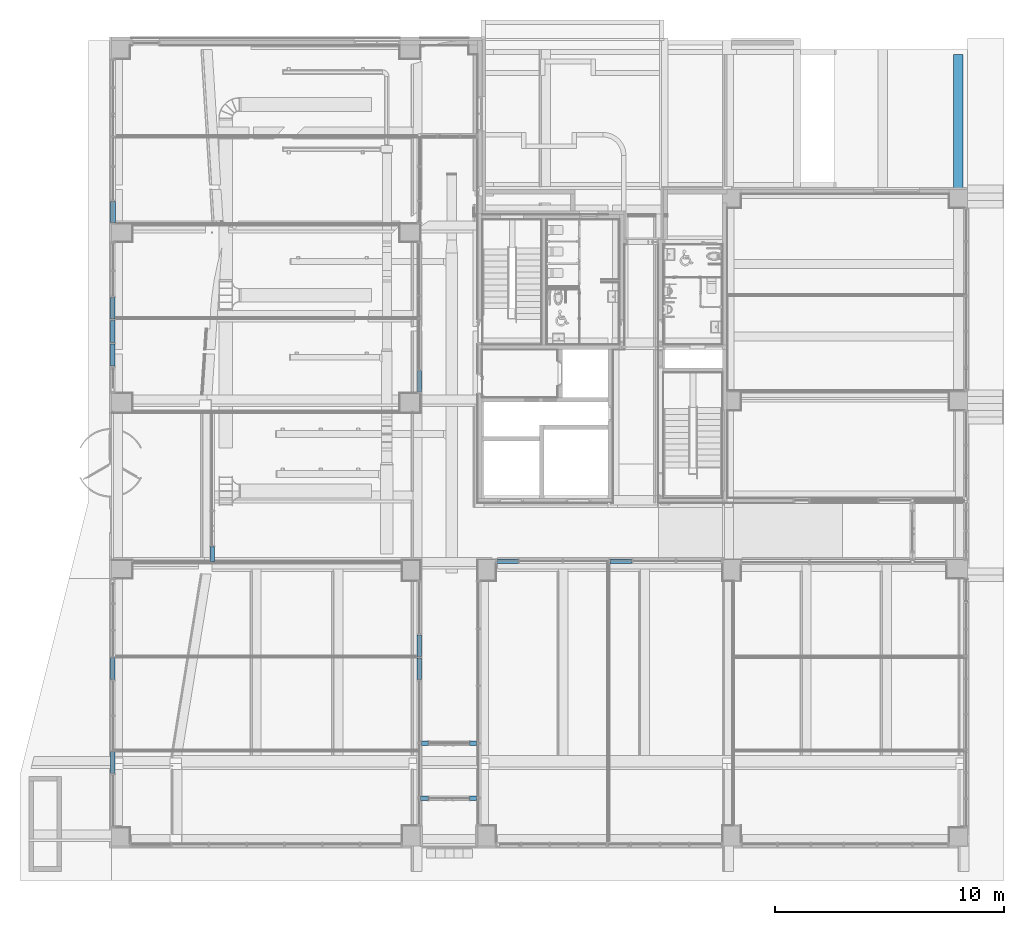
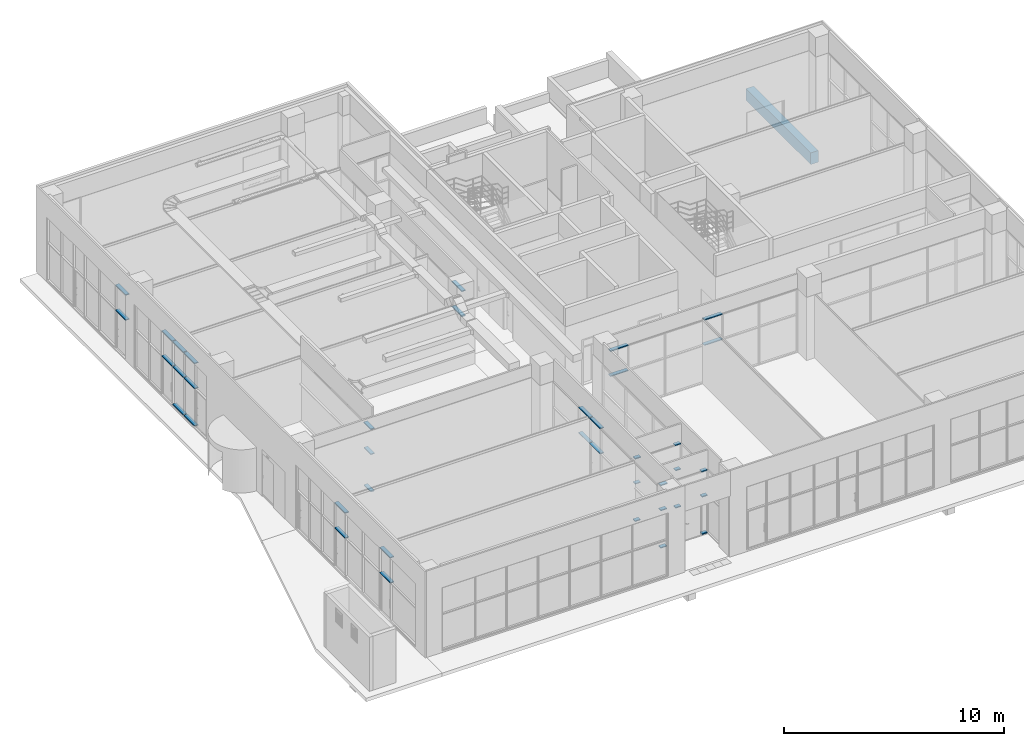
# One storey, part 17 of 100: 39 members, 1 beam, 9 elements without a shape of their own.
"""IFC2X3 building model written with IfcOpenShell, lengths in millimetres."""

from ifc_helpers import new_model, entity, si_unit, converted_unit, derived_unit, direction, frame, frame_2d, origin, origin_2d_with_axis, place, context, subcontext, project, spatial, rectangle, extrude, source, transform, mapped, material, material_list, type_object, type_shapes, element, aggregate, save


model = new_model("IFC2X3")

# Units and contexts
model_context = context("Model", 3, precision=0.01, world=origin(), true_north=direction((6.123031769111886e-17, 1.0)))
body_context = subcontext(model_context, "Body", "Model", "MODEL_VIEW")
ifc_project = project(units=[si_unit("LENGTHUNIT", "METRE", prefix="MILLI"), si_unit("AREAUNIT", "SQUARE_METRE"), si_unit("VOLUMEUNIT", "CUBIC_METRE"), converted_unit("PLANEANGLEUNIT", "DEGREE", entity("IfcRatioMeasure", 0.017453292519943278), si_unit("PLANEANGLEUNIT", "RADIAN"), dimensions=[0, 0, 0, 0, 0, 0, 0]), si_unit("MASSUNIT", "GRAM", prefix="KILO"), derived_unit("MASSDENSITYUNIT", [(si_unit("MASSUNIT", "GRAM", prefix="KILO"), 1), (si_unit("LENGTHUNIT", "METRE"), -3)]), derived_unit("MOMENTOFINERTIAUNIT", [(si_unit("LENGTHUNIT", "METRE"), 4)]), si_unit("TIMEUNIT", "SECOND"), si_unit("FREQUENCYUNIT", "HERTZ"), si_unit("THERMODYNAMICTEMPERATUREUNIT", "DEGREE_CELSIUS"), derived_unit("THERMALTRANSMITTANCEUNIT", [(si_unit("MASSUNIT", "GRAM", prefix="KILO"), 1), (si_unit("THERMODYNAMICTEMPERATUREUNIT", "KELVIN"), -1), (si_unit("TIMEUNIT", "SECOND"), -3)]), derived_unit("VOLUMETRICFLOWRATEUNIT", [(si_unit("LENGTHUNIT", "METRE"), 3), (si_unit("TIMEUNIT", "SECOND"), -1)]), derived_unit("MASSFLOWRATEUNIT", [(si_unit("MASSUNIT", "GRAM", prefix="KILO"), 1), (si_unit("TIMEUNIT", "SECOND"), -1)]), derived_unit("ROTATIONALFREQUENCYUNIT", [(si_unit("TIMEUNIT", "SECOND"), -1)]), si_unit("ELECTRICCURRENTUNIT", "AMPERE"), si_unit("ELECTRICVOLTAGEUNIT", "VOLT"), si_unit("POWERUNIT", "WATT"), si_unit("FORCEUNIT", "NEWTON", prefix="KILO"), si_unit("ILLUMINANCEUNIT", "LUX"), si_unit("LUMINOUSFLUXUNIT", "LUMEN"), si_unit("LUMINOUSINTENSITYUNIT", "CANDELA"), derived_unit("USERDEFINED", [(si_unit("MASSUNIT", "GRAM", prefix="KILO"), -1), (si_unit("LENGTHUNIT", "METRE"), -2), (si_unit("TIMEUNIT", "SECOND"), 3), (si_unit("LUMINOUSFLUXUNIT", "LUMEN"), 1)]), derived_unit("SOUNDPOWERUNIT", [(si_unit("MASSUNIT", "GRAM", prefix="KILO"), 1), (si_unit("LENGTHUNIT", "METRE"), 2), (si_unit("TIMEUNIT", "SECOND"), -3)]), derived_unit("SOUNDPRESSUREUNIT", [(si_unit("MASSUNIT", "GRAM", prefix="KILO"), 1), (si_unit("LENGTHUNIT", "METRE"), -1), (si_unit("TIMEUNIT", "SECOND"), -2)]), derived_unit("LINEARVELOCITYUNIT", [(si_unit("LENGTHUNIT", "METRE"), 1), (si_unit("TIMEUNIT", "SECOND"), -1)]), si_unit("PRESSUREUNIT", "PASCAL"), derived_unit("USERDEFINED", [(si_unit("LENGTHUNIT", "METRE"), -2), (si_unit("MASSUNIT", "GRAM", prefix="KILO"), 1), (si_unit("TIMEUNIT", "SECOND"), -2)]), derived_unit("LINEARFORCEUNIT", [(si_unit("MASSUNIT", "GRAM", prefix="KILO"), 1), (si_unit("LENGTHUNIT", "METRE"), 1), (si_unit("TIMEUNIT", "SECOND"), -2), (si_unit("LENGTHUNIT", "METRE"), -1)]), derived_unit("PLANARFORCEUNIT", [(si_unit("MASSUNIT", "GRAM", prefix="KILO"), 1), (si_unit("LENGTHUNIT", "METRE"), 1), (si_unit("TIMEUNIT", "SECOND"), -2), (si_unit("LENGTHUNIT", "METRE"), -2)])], contexts=[model_context])

# Site, building, storey
site_placement = place(None, frame((-14167.972527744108, -657.2125860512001, 0.0)))
site = spatial("IfcSite", under=ifc_project, at=site_placement, Name="Default", CompositionType="ELEMENT")
building_placement = place(site_placement, origin())
building = spatial("IfcBuilding", under=site, at=building_placement, Name="Sample Building", CompositionType="ELEMENT")
storey_placement = place(building_placement, origin())
storey = spatial("IfcBuildingStorey", under=building, at=storey_placement, Name="지상 1층", CompositionType="ELEMENT", Elevation=0.0)

# Curtain wall, member
curtain_wall_type = type_object("IfcCurtainWallType", Name="커튼월:CW112-스테인리스 스틸 커튼월", PredefinedType="NOTDEFINED")
curtain_wall_1_placement = place(storey_placement, origin())
curtain_wall_1 = element("IfcCurtainWall", 1, at=curtain_wall_1_placement, inside=storey, type_object=curtain_wall_type, Name="커튼월:CW112-스테인리스 스틸 커튼월", ObjectType="커튼월:CW112-스테인리스 스틸 커튼월")
ifc_material_1 = material(Name="<Unnamed>")
member_type_1 = type_object("IfcMemberType", Name="직사각형 멀리언:CW200-직사각형 멀리언 50x200mm", PredefinedType="MULLION", material=ifc_material_1)
shared_shape_1 = source(origin(), body_context, "Body", "SweptSolid", [
    extrude(rectangle(XDim=200.0, YDim=50.0, at=origin_2d_with_axis()), frame((-25.0, 0.0, -925.0), z_axis=(0.0, 0.0, 1.0), x_axis=(0.0, -1.0, 0.0)), (0.0, 0.0, 1.0), 924.9999999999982),
])
type_shapes(member_type_1, [shared_shape_1])
member_1_placement = place(curtain_wall_1_placement, frame((14130.455105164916, 27807.195169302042, 3600.0), z_axis=(0.0, -1.0, 0.0), x_axis=(0.0, 0.0, 1.0)))
member_1 = element("IfcMember", 2, at=member_1_placement, type_object=member_type_1, material=ifc_material_1, Name="직사각형 멀리언:CW200-직사각형 멀리언 50x200mm", ObjectType="직사각형 멀리언:CW200-직사각형 멀리언 50x200mm", context=body_context, shape_type="MappedRepresentation", body=[
    mapped(shared_shape_1, transform((0.0, 0.0, 0.0), scale=1.0)),
])

curtain_wall_2_placement = place(storey_placement, origin())
curtain_wall_2 = element("IfcCurtainWall", 3, at=curtain_wall_2_placement, inside=storey, type_object=curtain_wall_type, Name="커튼월:CW112-스테인리스 스틸 커튼월", ObjectType="커튼월:CW112-스테인리스 스틸 커튼월")
member_2_placement = place(curtain_wall_2_placement, frame((31842.972491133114, 13012.212586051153, 3600.0), z_axis=(1.0, 0.0, 0.0), x_axis=(0.0, 0.0, 1.0)))
member_2 = element("IfcMember", 4, at=member_2_placement, type_object=member_type_1, material=ifc_material_1, Name="직사각형 멀리언:CW200-직사각형 멀리언 50x200mm", ObjectType="직사각형 멀리언:CW200-직사각형 멀리언 50x200mm", context=body_context, shape_type="MappedRepresentation", body=[
    mapped(shared_shape_1, transform((0.0, 0.0, 0.0), scale=1.0)),
])

curtain_wall_3_placement = place(storey_placement, origin())
curtain_wall_3 = element("IfcCurtainWall", 5, at=curtain_wall_3_placement, inside=storey, type_object=curtain_wall_type, Name="커튼월:CW112-스테인리스 스틸 커튼월", ObjectType="커튼월:CW112-스테인리스 스틸 커튼월")
member_3_placement = place(curtain_wall_3_placement, frame((27522.95514177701, 21332.212307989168, 3600.0), z_axis=(0.0, 1.0, 0.0), x_axis=(0.0, 0.0, 1.0)))
member_3 = element("IfcMember", 6, at=member_3_placement, type_object=member_type_1, material=ifc_material_1, Name="직사각형 멀리언:CW200-직사각형 멀리언 50x200mm", ObjectType="직사각형 멀리언:CW200-직사각형 멀리언 50x200mm", context=body_context, shape_type="MappedRepresentation", body=[
    mapped(shared_shape_1, transform((0.0, 0.0, 0.0), scale=1.0)),
])

curtain_wall_4_placement = place(storey_placement, origin())
curtain_wall_4 = element("IfcCurtainWall", 7, at=curtain_wall_4_placement, inside=storey, type_object=curtain_wall_type, Name="커튼월:CW112-스테인리스 스틸 커튼월", ObjectType="커튼월:CW112-스테인리스 스틸 커튼월")
member_type_2 = type_object("IfcMemberType", Name="직사각형 멀리언:CW200-직사각형 멀리언 50x200mm", PredefinedType="MULLION", material=ifc_material_1)
shared_shape_2 = source(origin(), body_context, "Body", "SweptSolid", [
    extrude(rectangle(XDim=200.0, YDim=50.0, at=origin_2d_with_axis()), frame((-25.0, 0.0, -950.0), z_axis=(0.0, 0.0, 1.0), x_axis=(0.0, -1.0, 0.0)), (0.0, 0.0, 1.0), 949.9999999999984),
])
type_shapes(member_type_2, [shared_shape_2])
member_4_placement = place(curtain_wall_4_placement, frame((14129.83965484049, 23582.177624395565, 3600.0), z_axis=(0.0, -1.0, 0.0), x_axis=(0.0, 0.0, 1.0)))
member_4 = element("IfcMember", 8, at=member_4_placement, type_object=member_type_2, material=ifc_material_1, Name="직사각형 멀리언:CW200-직사각형 멀리언 50x200mm", ObjectType="직사각형 멀리언:CW200-직사각형 멀리언 50x200mm", context=body_context, shape_type="MappedRepresentation", body=[
    mapped(shared_shape_2, transform((0.0, 0.0, 0.0), scale=1.0)),
])

curtain_wall_5_placement = place(storey_placement, origin())
curtain_wall_5 = element("IfcCurtainWall", 9, at=curtain_wall_5_placement, inside=storey, type_object=curtain_wall_type, Name="커튼월:CW112-스테인리스 스틸 커튼월", ObjectType="커튼월:CW112-스테인리스 스틸 커튼월")
member_5_placement = place(curtain_wall_5_placement, frame((14129.839654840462, 3732.177624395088, 3600.0), z_axis=(0.0, -1.0, 0.0), x_axis=(0.0, 0.0, 1.0)))
member_5 = element("IfcMember", 10, at=member_5_placement, type_object=member_type_2, material=ifc_material_1, Name="직사각형 멀리언:CW200-직사각형 멀리언 50x200mm", ObjectType="직사각형 멀리언:CW200-직사각형 멀리언 50x200mm", context=body_context, shape_type="MappedRepresentation", body=[
    mapped(shared_shape_2, transform((0.0, 0.0, 0.0), scale=1.0)),
])

# Curtain wall, members
curtain_wall_6_placement = place(storey_placement, origin())
curtain_wall_6 = element("IfcCurtainWall", 11, at=curtain_wall_6_placement, inside=storey, type_object=curtain_wall_type, Name="커튼월:CW112-스테인리스 스틸 커튼월", ObjectType="커튼월:CW112-스테인리스 스틸 커튼월")
member_6_placement = place(curtain_wall_6_placement, frame((27522.95514177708, 9782.212330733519, 3600.0), z_axis=(0.0, 1.0, 0.0), x_axis=(0.0, 0.0, 1.0)))
member_6 = element("IfcMember", 12, at=member_6_placement, type_object=member_type_2, material=ifc_material_1, Name="직사각형 멀리언:CW200-직사각형 멀리언 50x200mm", ObjectType="직사각형 멀리언:CW200-직사각형 멀리언 50x200mm", context=body_context, shape_type="MappedRepresentation", body=[
    mapped(shared_shape_2, transform((0.0, 0.0, 0.0), scale=1.0)),
])
member_7_placement = place(curtain_wall_6_placement, frame((27522.95514177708, 8782.212330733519, 3600.0), z_axis=(0.0, 1.0, 0.0), x_axis=(0.0, 0.0, 1.0)))
member_7 = element("IfcMember", 13, at=member_7_placement, type_object=member_type_2, material=ifc_material_1, Name="직사각형 멀리언:CW200-직사각형 멀리언 50x200mm", ObjectType="직사각형 멀리언:CW200-직사각형 멀리언 50x200mm", context=body_context, shape_type="MappedRepresentation", body=[
    mapped(shared_shape_2, transform((0.0, 0.0, 0.0), scale=1.0)),
])

# Member
member_8_placement = place(curtain_wall_2_placement, frame((36792.97249113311, 13012.212586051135, 3600.0), z_axis=(1.0, 0.0, 0.0), x_axis=(0.0, 0.0, 1.0)))
member_8 = element("IfcMember", 14, at=member_8_placement, type_object=member_type_2, material=ifc_material_1, Name="직사각형 멀리언:CW200-직사각형 멀리언 50x200mm", ObjectType="직사각형 멀리언:CW200-직사각형 멀리언 50x200mm", context=body_context, shape_type="MappedRepresentation", body=[
    mapped(shared_shape_2, transform((0.0, 0.0, 0.0), scale=1.0)),
])

member_type_3 = type_object("IfcMemberType", Name="직사각형 멀리언:CW200-직사각형 멀리언 50x200mm", PredefinedType="MULLION", material=ifc_material_1)
shared_shape_3 = source(origin(), body_context, "Body", "SweptSolid", [
    extrude(rectangle(XDim=200.0, YDim=50.0, at=origin_2d_with_axis()), frame((0.0, 0.0, -950.0), z_axis=(0.0, 0.0, 1.0), x_axis=(0.0, -1.0, 0.0)), (0.0, 0.0, 1.0), 949.9999999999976),
])
type_shapes(member_type_3, [shared_shape_3])
member_9_placement = place(curtain_wall_4_placement, frame((14129.83965484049, 23582.177624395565, 2180.0), z_axis=(0.0, -1.0, 0.0), x_axis=(0.0, 0.0, 1.0)))
member_9 = element("IfcMember", 15, at=member_9_placement, type_object=member_type_3, material=ifc_material_1, Name="직사각형 멀리언:CW200-직사각형 멀리언 50x200mm", ObjectType="직사각형 멀리언:CW200-직사각형 멀리언 50x200mm", context=body_context, shape_type="MappedRepresentation", body=[
    mapped(shared_shape_3, transform((0.0, 0.0, 0.0), scale=1.0)),
])

member_10_placement = place(curtain_wall_5_placement, frame((14129.839654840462, 3732.177624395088, 2180.0), z_axis=(0.0, -1.0, 0.0), x_axis=(0.0, 0.0, 1.0)))
member_10 = element("IfcMember", 16, at=member_10_placement, type_object=member_type_3, material=ifc_material_1, Name="직사각형 멀리언:CW200-직사각형 멀리언 50x200mm", ObjectType="직사각형 멀리언:CW200-직사각형 멀리언 50x200mm", context=body_context, shape_type="MappedRepresentation", body=[
    mapped(shared_shape_3, transform((0.0, 0.0, 0.0), scale=1.0)),
])

member_11_placement = place(curtain_wall_6_placement, frame((27522.95514177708, 8782.212330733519, 2180.0), z_axis=(0.0, 1.0, 0.0), x_axis=(0.0, 0.0, 1.0)))
member_11 = element("IfcMember", 17, at=member_11_placement, type_object=member_type_3, material=ifc_material_1, Name="직사각형 멀리언:CW200-직사각형 멀리언 50x200mm", ObjectType="직사각형 멀리언:CW200-직사각형 멀리언 50x200mm", context=body_context, shape_type="MappedRepresentation", body=[
    mapped(shared_shape_3, transform((0.0, 0.0, 0.0), scale=1.0)),
])

member_12_placement = place(curtain_wall_6_placement, frame((27522.95514177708, 9782.212330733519, 2180.0), z_axis=(0.0, 1.0, 0.0), x_axis=(0.0, 0.0, 1.0)))
member_12 = element("IfcMember", 18, at=member_12_placement, type_object=member_type_3, material=ifc_material_1, Name="직사각형 멀리언:CW200-직사각형 멀리언 50x200mm", ObjectType="직사각형 멀리언:CW200-직사각형 멀리언 50x200mm", context=body_context, shape_type="MappedRepresentation", body=[
    mapped(shared_shape_3, transform((0.0, 0.0, 0.0), scale=1.0)),
])

aggregate(curtain_wall_6, [member_6, member_7, member_11, member_12])

member_13_placement = place(curtain_wall_2_placement, frame((36792.97249113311, 13012.212586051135, 2180.0), z_axis=(1.0, 0.0, 0.0), x_axis=(0.0, 0.0, 1.0)))
member_13 = element("IfcMember", 19, at=member_13_placement, type_object=member_type_3, material=ifc_material_1, Name="직사각형 멀리언:CW200-직사각형 멀리언 50x200mm", ObjectType="직사각형 멀리언:CW200-직사각형 멀리언 50x200mm", context=body_context, shape_type="MappedRepresentation", body=[
    mapped(shared_shape_3, transform((0.0, 0.0, 0.0), scale=1.0)),
])

member_type_4 = type_object("IfcMemberType", Name="직사각형 멀리언:CW200-직사각형 멀리언 50x200mm", PredefinedType="MULLION", material=ifc_material_1)
shared_shape_4 = source(origin(), body_context, "Body", "SweptSolid", [
    extrude(rectangle(XDim=200.0, YDim=50.0, at=origin_2d_with_axis()), frame((0.0, 0.0, -925.0), z_axis=(0.0, 0.0, 1.0), x_axis=(0.0, -1.0, 0.0)), (0.0, 0.0, 1.0), 924.9999999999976),
])
type_shapes(member_type_4, [shared_shape_4])
member_14_placement = place(curtain_wall_1_placement, frame((14130.455105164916, 27807.195169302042, 2180.0), z_axis=(0.0, -1.0, 0.0), x_axis=(0.0, 0.0, 1.0)))
member_14 = element("IfcMember", 20, at=member_14_placement, type_object=member_type_4, material=ifc_material_1, Name="직사각형 멀리언:CW200-직사각형 멀리언 50x200mm", ObjectType="직사각형 멀리언:CW200-직사각형 멀리언 50x200mm", context=body_context, shape_type="MappedRepresentation", body=[
    mapped(shared_shape_4, transform((0.0, 0.0, 0.0), scale=1.0)),
])

aggregate(curtain_wall_1, [member_1, member_14])

member_15_placement = place(curtain_wall_2_placement, frame((31842.972491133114, 13012.212586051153, 2180.0), z_axis=(1.0, 0.0, 0.0), x_axis=(0.0, 0.0, 1.0)))
member_15 = element("IfcMember", 21, at=member_15_placement, type_object=member_type_4, material=ifc_material_1, Name="직사각형 멀리언:CW200-직사각형 멀리언 50x200mm", ObjectType="직사각형 멀리언:CW200-직사각형 멀리언 50x200mm", context=body_context, shape_type="MappedRepresentation", body=[
    mapped(shared_shape_4, transform((0.0, 0.0, 0.0), scale=1.0)),
])

aggregate(curtain_wall_2, [member_15, member_2, member_13, member_8])

member_16_placement = place(curtain_wall_3_placement, frame((27522.95514177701, 21332.212307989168, 2180.0), z_axis=(0.0, 1.0, 0.0), x_axis=(0.0, 0.0, 1.0)))
member_16 = element("IfcMember", 22, at=member_16_placement, type_object=member_type_4, material=ifc_material_1, Name="직사각형 멀리언:CW200-직사각형 멀리언 50x200mm", ObjectType="직사각형 멀리언:CW200-직사각형 멀리언 50x200mm", context=body_context, shape_type="MappedRepresentation", body=[
    mapped(shared_shape_4, transform((0.0, 0.0, 0.0), scale=1.0)),
])

aggregate(curtain_wall_3, [member_3, member_16])

member_type_5 = type_object("IfcMemberType", Name="직사각형 멀리언:CW200-직사각형 멀리언 50x200mm", PredefinedType="MULLION", material=ifc_material_1)
shared_shape_5 = source(origin(), body_context, "Body", "SweptSolid", [
    extrude(rectangle(XDim=200.0, YDim=50.0, at=origin_2d_with_axis()), frame((-25.0, 0.0, -975.0), z_axis=(0.0, 0.0, 1.0), x_axis=(0.0, -1.0, 0.0)), (0.0, 0.0, 1.0), 975.0000000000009),
])
type_shapes(member_type_5, [shared_shape_5])
member_17_placement = place(curtain_wall_4_placement, frame((14129.83965484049, 23532.17762439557, 80.0), z_axis=(0.0, 1.0, 0.0), x_axis=(0.0, 0.0, -1.0)))
member_17 = element("IfcMember", 23, at=member_17_placement, type_object=member_type_5, material=ifc_material_1, Name="직사각형 멀리언:CW200-직사각형 멀리언 50x200mm", ObjectType="직사각형 멀리언:CW200-직사각형 멀리언 50x200mm", context=body_context, shape_type="MappedRepresentation", body=[
    mapped(shared_shape_5, transform((0.0, 0.0, 0.0), scale=1.0)),
])

member_18_placement = place(curtain_wall_4_placement, frame((14129.839654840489, 22507.177624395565, 80.0), z_axis=(0.0, 1.0, 0.0), x_axis=(0.0, 0.0, -1.0)))
member_18 = element("IfcMember", 24, at=member_18_placement, type_object=member_type_5, material=ifc_material_1, Name="직사각형 멀리언:CW200-직사각형 멀리언 50x200mm", ObjectType="직사각형 멀리언:CW200-직사각형 멀리언 50x200mm", context=body_context, shape_type="MappedRepresentation", body=[
    mapped(shared_shape_5, transform((0.0, 0.0, 0.0), scale=1.0)),
])

member_type_6 = type_object("IfcMemberType", Name="직사각형 멀리언:CW200-직사각형 멀리언 50x200mm", PredefinedType="MULLION", material=ifc_material_1)
shared_shape_6 = source(origin(), body_context, "Body", "SweptSolid", [
    extrude(rectangle(XDim=200.0, YDim=50.0, at=origin_2d_with_axis()), frame((0.0, 0.0, -975.0), z_axis=(0.0, 0.0, 1.0), x_axis=(0.0, -1.0, 0.0)), (0.0, 0.0, 1.0), 975.0000000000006),
])
type_shapes(member_type_6, [shared_shape_6])
member_19_placement = place(curtain_wall_4_placement, frame((14129.839654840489, 22557.177624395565, 2180.0), z_axis=(0.0, -1.0, 0.0), x_axis=(0.0, 0.0, 1.0)))
member_19 = element("IfcMember", 25, at=member_19_placement, type_object=member_type_6, material=ifc_material_1, Name="직사각형 멀리언:CW200-직사각형 멀리언 50x200mm", ObjectType="직사각형 멀리언:CW200-직사각형 멀리언 50x200mm", context=body_context, shape_type="MappedRepresentation", body=[
    mapped(shared_shape_6, transform((0.0, 0.0, 0.0), scale=1.0)),
])

member_20_placement = place(curtain_wall_4_placement, frame((14129.839654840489, 21532.17762439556, 2180.0), z_axis=(0.0, -1.0, 0.0), x_axis=(0.0, 0.0, 1.0)))
member_20 = element("IfcMember", 26, at=member_20_placement, type_object=member_type_6, material=ifc_material_1, Name="직사각형 멀리언:CW200-직사각형 멀리언 50x200mm", ObjectType="직사각형 멀리언:CW200-직사각형 멀리언 50x200mm", context=body_context, shape_type="MappedRepresentation", body=[
    mapped(shared_shape_6, transform((0.0, 0.0, 0.0), scale=1.0)),
])

member_type_7 = type_object("IfcMemberType", Name="직사각형 멀리언:CW200-직사각형 멀리언 50x200mm", PredefinedType="MULLION", material=ifc_material_1)
shared_shape_7 = source(origin(), body_context, "Body", "SweptSolid", [
    extrude(rectangle(XDim=200.0, YDim=50.0, at=origin_2d_with_axis()), frame((-25.0, 0.0, -975.0), z_axis=(0.0, 0.0, 1.0), x_axis=(0.0, -1.0, 0.0)), (0.0, 0.0, 1.0), 975.0000000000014),
])
type_shapes(member_type_7, [shared_shape_7])
member_21_placement = place(curtain_wall_4_placement, frame((14129.839654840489, 22557.177624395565, 3600.0), z_axis=(0.0, -1.0, 0.0), x_axis=(0.0, 0.0, 1.0)))
member_21 = element("IfcMember", 27, at=member_21_placement, type_object=member_type_7, material=ifc_material_1, Name="직사각형 멀리언:CW200-직사각형 멀리언 50x200mm", ObjectType="직사각형 멀리언:CW200-직사각형 멀리언 50x200mm", context=body_context, shape_type="MappedRepresentation", body=[
    mapped(shared_shape_7, transform((0.0, 0.0, 0.0), scale=1.0)),
])

member_22_placement = place(curtain_wall_4_placement, frame((14129.839654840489, 21532.17762439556, 3600.0), z_axis=(0.0, -1.0, 0.0), x_axis=(0.0, 0.0, 1.0)))
member_22 = element("IfcMember", 28, at=member_22_placement, type_object=member_type_7, material=ifc_material_1, Name="직사각형 멀리언:CW200-직사각형 멀리언 50x200mm", ObjectType="직사각형 멀리언:CW200-직사각형 멀리언 50x200mm", context=body_context, shape_type="MappedRepresentation", body=[
    mapped(shared_shape_7, transform((0.0, 0.0, 0.0), scale=1.0)),
])

aggregate(curtain_wall_4, [member_4, member_17, member_9, member_19, member_21, member_18, member_20, member_22])

member_type_8 = type_object("IfcMemberType", Name="직사각형 멀리언:CW200-직사각형 멀리언 50x200mm", PredefinedType="MULLION", material=ifc_material_1)
shared_shape_8 = source(origin(), body_context, "Body", "SweptSolid", [
    extrude(rectangle(XDim=200.0, YDim=50.0, at=origin_2d_with_axis()), frame((-25.0, 0.0, -960.0), z_axis=(0.0, 0.0, 1.0), x_axis=(0.0, -1.0, 0.0)), (0.0, 0.0, 1.0), 960.0000000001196),
])
type_shapes(member_type_8, [shared_shape_8])
member_23_placement = place(curtain_wall_5_placement, frame((14129.839654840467, 7832.177624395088, 3600.0), z_axis=(0.0, -1.0, 0.0), x_axis=(0.0, 0.0, 1.0)))
member_23 = element("IfcMember", 29, at=member_23_placement, type_object=member_type_8, material=ifc_material_1, Name="직사각형 멀리언:CW200-직사각형 멀리언 50x200mm", ObjectType="직사각형 멀리언:CW200-직사각형 멀리언 50x200mm", context=body_context, shape_type="MappedRepresentation", body=[
    mapped(shared_shape_8, transform((0.0, 0.0, 0.0), scale=1.0)),
])

member_type_9 = type_object("IfcMemberType", Name="직사각형 멀리언:CW200-직사각형 멀리언 50x200mm", PredefinedType="MULLION", material=ifc_material_1)
shared_shape_9 = source(origin(), body_context, "Body", "SweptSolid", [
    extrude(rectangle(XDim=200.0, YDim=50.0, at=origin_2d_with_axis()), frame((0.0, 0.0, -960.0), z_axis=(0.0, 0.0, 1.0), x_axis=(0.0, -1.0, 0.0)), (0.0, 0.0, 1.0), 960.0000000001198),
])
type_shapes(member_type_9, [shared_shape_9])
member_24_placement = place(curtain_wall_5_placement, frame((14129.839654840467, 7832.177624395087, 2180.0), z_axis=(0.0, -1.0, 0.0), x_axis=(0.0, 0.0, 1.0)))
member_24 = element("IfcMember", 30, at=member_24_placement, type_object=member_type_9, material=ifc_material_1, Name="직사각형 멀리언:CW200-직사각형 멀리언 50x200mm", ObjectType="직사각형 멀리언:CW200-직사각형 멀리언 50x200mm", context=body_context, shape_type="MappedRepresentation", body=[
    mapped(shared_shape_9, transform((0.0, 0.0, 0.0), scale=1.0)),
])

aggregate(curtain_wall_5, [member_23, member_24, member_10, member_5])

# Curtain wall, members
curtain_wall_7_placement = place(storey_placement, origin())
curtain_wall_7 = element("IfcCurtainWall", 31, at=curtain_wall_7_placement, inside=storey, type_object=curtain_wall_type, Name="커튼월:CW112-스테인리스 스틸 커튼월", ObjectType="커튼월:CW112-스테인리스 스틸 커튼월")
member_type_10 = type_object("IfcMemberType", Name="직사각형 멀리언:CW200-직사각형 멀리언 50x200mm", PredefinedType="MULLION", material=ifc_material_1)
shared_shape_10 = source(origin(), body_context, "Body", "SweptSolid", [
    extrude(rectangle(XDim=200.0, YDim=50.0, at=origin_2d_with_axis()), frame((-25.0, 0.0, -655.0557480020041), z_axis=(0.0, 0.0, 1.0), x_axis=(0.0, -1.0, 0.0)), (0.0, 0.0, 1.0), 655.0557480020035),
])
type_shapes(member_type_10, [shared_shape_10])
member_25_placement = place(curtain_wall_7_placement, frame((18467.963798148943, 13002.212586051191, 3600.0), z_axis=(0.0, -1.0, 0.0), x_axis=(0.0, 0.0, 1.0)))
member_25 = element("IfcMember", 32, at=member_25_placement, type_object=member_type_10, material=ifc_material_1, Name="직사각형 멀리언:CW200-직사각형 멀리언 50x200mm", ObjectType="직사각형 멀리언:CW200-직사각형 멀리언 50x200mm", context=body_context, shape_type="MappedRepresentation", body=[
    mapped(shared_shape_10, transform((0.0, 0.0, 0.0), scale=1.0)),
])
member_type_11 = type_object("IfcMemberType", Name="직사각형 멀리언:CW200-직사각형 멀리언 50x200mm", PredefinedType="MULLION", material=ifc_material_1)
shared_shape_11 = source(origin(), body_context, "Body", "SweptSolid", [
    extrude(rectangle(XDim=200.0, YDim=50.0, at=origin_2d_with_axis()), frame((-25.0, 0.0, -630.0557480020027), z_axis=(0.0, 0.0, 1.0), x_axis=(0.0, -1.0, 0.0)), (0.0, 0.0, 1.0), 630.0557480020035),
])
type_shapes(member_type_11, [shared_shape_11])
member_26_placement = place(curtain_wall_7_placement, frame((18467.963798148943, 13632.268334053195, 80.0), z_axis=(0.0, 1.0, 0.0), x_axis=(0.0, 0.0, -1.0)))
member_26 = element("IfcMember", 33, at=member_26_placement, type_object=member_type_11, material=ifc_material_1, Name="직사각형 멀리언:CW200-직사각형 멀리언 50x200mm", ObjectType="직사각형 멀리언:CW200-직사각형 멀리언 50x200mm", context=body_context, shape_type="MappedRepresentation", body=[
    mapped(shared_shape_11, transform((0.0, 0.0, 0.0), scale=1.0)),
])
member_type_12 = type_object("IfcMemberType", Name="직사각형 멀리언:CW200-직사각형 멀리언 50x200mm", PredefinedType="MULLION", material=ifc_material_1)
shared_shape_12 = source(origin(), body_context, "Body", "SweptSolid", [
    extrude(rectangle(XDim=200.0, YDim=50.0, at=origin_2d_with_axis()), frame((0.0, 0.0, -630.0557480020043), z_axis=(0.0, 0.0, 1.0), x_axis=(0.0, -1.0, 0.0)), (0.0, 0.0, 1.0), 630.0557480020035),
])
type_shapes(member_type_12, [shared_shape_12])
member_27_placement = place(curtain_wall_7_placement, frame((18467.963798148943, 13002.212586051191, 2180.0), z_axis=(0.0, -1.0, 0.0), x_axis=(0.0, 0.0, 1.0)))
member_27 = element("IfcMember", 34, at=member_27_placement, type_object=member_type_12, material=ifc_material_1, Name="직사각형 멀리언:CW200-직사각형 멀리언 50x200mm", ObjectType="직사각형 멀리언:CW200-직사각형 멀리언 50x200mm", context=body_context, shape_type="MappedRepresentation", body=[
    mapped(shared_shape_12, transform((0.0, 0.0, 0.0), scale=1.0)),
])
aggregate(curtain_wall_7, [member_25, member_26, member_27])

curtain_wall_8_placement = place(storey_placement, origin())
curtain_wall_8 = element("IfcCurtainWall", 35, at=curtain_wall_8_placement, inside=storey, type_object=curtain_wall_type, Name="커튼월:CW112-스테인리스 스틸 커튼월", ObjectType="커튼월:CW112-스테인리스 스틸 커튼월")
member_type_13 = type_object("IfcMemberType", Name="직사각형 멀리언:CW200-직사각형 멀리언 50x200mm", PredefinedType="MULLION", material=ifc_material_1)
shared_shape_13 = source(origin(), body_context, "Body", "SweptSolid", [
    extrude(rectangle(XDim=200.0, YDim=50.0, at=origin_2d_with_axis()), frame((-25.0, 0.0, -275.0), z_axis=(0.0, 0.0, 1.0), x_axis=(0.0, -1.0, 0.0)), (0.0, 0.0, 1.0), 275.00000000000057),
])
type_shapes(member_type_13, [shared_shape_13])
member_28_placement = place(curtain_wall_8_placement, frame((30017.972491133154, 5057.177624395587, 80.0), z_axis=(1.0, 0.0, 0.0), x_axis=(0.0, 0.0, -1.0)))
member_28 = element("IfcMember", 36, at=member_28_placement, type_object=member_type_13, material=ifc_material_1, Name="직사각형 멀리언:CW200-직사각형 멀리언 50x200mm", ObjectType="직사각형 멀리언:CW200-직사각형 멀리언 50x200mm", context=body_context, shape_type="MappedRepresentation", body=[
    mapped(shared_shape_13, transform((0.0, 0.0, 0.0), scale=1.0)),
])
member_29_placement = place(curtain_wall_8_placement, frame((27893.072915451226, 5057.177624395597, 80.0), z_axis=(1.0, 0.0, 0.0), x_axis=(0.0, 0.0, -1.0)))
member_29 = element("IfcMember", 37, at=member_29_placement, type_object=member_type_13, material=ifc_material_1, Name="직사각형 멀리언:CW200-직사각형 멀리언 50x200mm", ObjectType="직사각형 멀리언:CW200-직사각형 멀리언 50x200mm", context=body_context, shape_type="MappedRepresentation", body=[
    mapped(shared_shape_13, transform((0.0, 0.0, 0.0), scale=1.0)),
])

# Curtain wall, member
curtain_wall_9_placement = place(storey_placement, origin())
curtain_wall_9 = element("IfcCurtainWall", 38, at=curtain_wall_9_placement, inside=storey, type_object=curtain_wall_type, Name="커튼월:CW112-스테인리스 스틸 커튼월", ObjectType="커튼월:CW112-스테인리스 스틸 커튼월")
member_30_placement = place(curtain_wall_9_placement, frame((30017.972491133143, 2645.177624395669, 80.0), z_axis=(1.0, 0.0, 0.0), x_axis=(0.0, 0.0, -1.0)))
member_30 = element("IfcMember", 39, at=member_30_placement, type_object=member_type_13, material=ifc_material_1, Name="직사각형 멀리언:CW200-직사각형 멀리언 50x200mm", ObjectType="직사각형 멀리언:CW200-직사각형 멀리언 50x200mm", context=body_context, shape_type="MappedRepresentation", body=[
    mapped(shared_shape_13, transform((0.0, 0.0, 0.0), scale=1.0)),
])

# Member
member_type_14 = type_object("IfcMemberType", Name="직사각형 멀리언:CW200-직사각형 멀리언 50x200mm", PredefinedType="MULLION", material=ifc_material_1)
shared_shape_14 = source(origin(), body_context, "Body", "SweptSolid", [
    extrude(rectangle(XDim=200.0, YDim=50.0, at=origin_2d_with_axis()), frame((-25.0, 0.0, -300.0), z_axis=(0.0, 0.0, 1.0), x_axis=(0.0, -1.0, 0.0)), (0.0, 0.0, 1.0), 300.00000000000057),
])
type_shapes(member_type_14, [shared_shape_14])
member_31_placement = place(curtain_wall_8_placement, frame((29718.072915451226, 5057.177624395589, 3600.0), z_axis=(-1.0, 0.0, 0.0), x_axis=(0.0, 0.0, 1.0)))
member_31 = element("IfcMember", 40, at=member_31_placement, type_object=member_type_14, material=ifc_material_1, Name="직사각형 멀리언:CW200-직사각형 멀리언 50x200mm", ObjectType="직사각형 멀리언:CW200-직사각형 멀리언 50x200mm", context=body_context, shape_type="MappedRepresentation", body=[
    mapped(shared_shape_14, transform((0.0, 0.0, 0.0), scale=1.0)),
])

member_32_placement = place(curtain_wall_9_placement, frame((29718.072915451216, 2645.1776243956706, 3600.0), z_axis=(-1.0, 0.0, 0.0), x_axis=(0.0, 0.0, 1.0)))
member_32 = element("IfcMember", 41, at=member_32_placement, type_object=member_type_14, material=ifc_material_1, Name="직사각형 멀리언:CW200-직사각형 멀리언 50x200mm", ObjectType="직사각형 멀리언:CW200-직사각형 멀리언 50x200mm", context=body_context, shape_type="MappedRepresentation", body=[
    mapped(shared_shape_14, transform((0.0, 0.0, 0.0), scale=1.0)),
])

member_type_15 = type_object("IfcMemberType", Name="직사각형 멀리언:CW200-직사각형 멀리언 50x200mm", PredefinedType="MULLION", material=ifc_material_1)
shared_shape_15 = source(origin(), body_context, "Body", "SweptSolid", [
    extrude(rectangle(XDim=200.0, YDim=50.0, at=origin_2d_with_axis()), frame((0.0, 0.0, -275.0), z_axis=(0.0, 0.0, 1.0), x_axis=(0.0, -1.0, 0.0)), (0.0, 0.0, 1.0), 275.00000000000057),
])
type_shapes(member_type_15, [shared_shape_15])
member_33_placement = place(curtain_wall_8_placement, frame((29743.072915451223, 5057.177624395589, 2180.0), z_axis=(-1.0, 0.0, 0.0), x_axis=(0.0, 0.0, 1.0)))
member_33 = element("IfcMember", 42, at=member_33_placement, type_object=member_type_15, material=ifc_material_1, Name="직사각형 멀리언:CW200-직사각형 멀리언 50x200mm", ObjectType="직사각형 멀리언:CW200-직사각형 멀리언 50x200mm", context=body_context, shape_type="MappedRepresentation", body=[
    mapped(shared_shape_15, transform((0.0, 0.0, 0.0), scale=1.0)),
])

member_34_placement = place(curtain_wall_8_placement, frame((27617.955141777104, 5057.1776243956, 2180.0), z_axis=(-1.0, 0.0, 0.0), x_axis=(0.0, 0.0, 1.0)))
member_34 = element("IfcMember", 43, at=member_34_placement, type_object=member_type_15, material=ifc_material_1, Name="직사각형 멀리언:CW200-직사각형 멀리언 50x200mm", ObjectType="직사각형 멀리언:CW200-직사각형 멀리언 50x200mm", context=body_context, shape_type="MappedRepresentation", body=[
    mapped(shared_shape_15, transform((0.0, 0.0, 0.0), scale=1.0)),
])

member_35_placement = place(curtain_wall_9_placement, frame((29743.072915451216, 2645.1776243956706, 2180.0), z_axis=(-1.0, 0.0, 0.0), x_axis=(0.0, 0.0, 1.0)))
member_35 = element("IfcMember", 44, at=member_35_placement, type_object=member_type_15, material=ifc_material_1, Name="직사각형 멀리언:CW200-직사각형 멀리언 50x200mm", ObjectType="직사각형 멀리언:CW200-직사각형 멀리언 50x200mm", context=body_context, shape_type="MappedRepresentation", body=[
    mapped(shared_shape_15, transform((0.0, 0.0, 0.0), scale=1.0)),
])

member_type_16 = type_object("IfcMemberType", Name="직사각형 멀리언:CW200-직사각형 멀리언 50x200mm", PredefinedType="MULLION", material=ifc_material_1)
shared_shape_16 = source(origin(), body_context, "Body", "SweptSolid", [
    extrude(rectangle(XDim=200.0, YDim=50.0, at=origin_2d_with_axis()), frame((-25.0, 0.0, -300.1177736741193), z_axis=(0.0, 0.0, 1.0), x_axis=(0.0, -1.0, 0.0)), (0.0, 0.0, 1.0), 300.1177736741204),
])
type_shapes(member_type_16, [shared_shape_16])
member_36_placement = place(curtain_wall_8_placement, frame((27617.955141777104, 5057.1776243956, 3600.0), z_axis=(-1.0, 0.0, 0.0), x_axis=(0.0, 0.0, 1.0)))
member_36 = element("IfcMember", 45, at=member_36_placement, type_object=member_type_16, material=ifc_material_1, Name="직사각형 멀리언:CW200-직사각형 멀리언 50x200mm", ObjectType="직사각형 멀리언:CW200-직사각형 멀리언 50x200mm", context=body_context, shape_type="MappedRepresentation", body=[
    mapped(shared_shape_16, transform((0.0, 0.0, 0.0), scale=1.0)),
])

aggregate(curtain_wall_8, [member_36, member_28, member_29, member_31, member_33, member_34])

member_type_17 = type_object("IfcMemberType", Name="직사각형 멀리언:CW200-직사각형 멀리언 50x200mm", PredefinedType="MULLION", material=ifc_material_1)
shared_shape_17 = source(origin(), body_context, "Body", "SweptSolid", [
    extrude(rectangle(XDim=200.0, YDim=50.0, at=origin_2d_with_axis()), frame((-25.0, 0.0, -345.11777367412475), z_axis=(0.0, 0.0, 1.0), x_axis=(0.0, -1.0, 0.0)), (0.0, 0.0, 1.0), 345.11777367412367),
])
type_shapes(member_type_17, [shared_shape_17])
member_37_placement = place(curtain_wall_9_placement, frame((27572.955141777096, 2645.1776243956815, 3600.0), z_axis=(-1.0, 0.0, 0.0), x_axis=(0.0, 0.0, 1.0)))
member_37 = element("IfcMember", 46, at=member_37_placement, type_object=member_type_17, material=ifc_material_1, Name="직사각형 멀리언:CW200-직사각형 멀리언 50x200mm", ObjectType="직사각형 멀리언:CW200-직사각형 멀리언 50x200mm", context=body_context, shape_type="MappedRepresentation", body=[
    mapped(shared_shape_17, transform((0.0, 0.0, 0.0), scale=1.0)),
])

member_type_18 = type_object("IfcMemberType", Name="직사각형 멀리언:CW200-직사각형 멀리언 50x200mm", PredefinedType="MULLION", material=ifc_material_1)
shared_shape_18 = source(origin(), body_context, "Body", "SweptSolid", [
    extrude(rectangle(XDim=200.0, YDim=50.0, at=origin_2d_with_axis()), frame((-25.0, 0.0, -320.11777367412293), z_axis=(0.0, 0.0, 1.0), x_axis=(0.0, -1.0, 0.0)), (0.0, 0.0, 1.0), 320.11777367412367),
])
type_shapes(member_type_18, [shared_shape_18])
member_38_placement = place(curtain_wall_9_placement, frame((27893.07291545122, 2645.17762439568, 80.0), z_axis=(1.0, 0.0, 0.0), x_axis=(0.0, 0.0, -1.0)))
member_38 = element("IfcMember", 47, at=member_38_placement, type_object=member_type_18, material=ifc_material_1, Name="직사각형 멀리언:CW200-직사각형 멀리언 50x200mm", ObjectType="직사각형 멀리언:CW200-직사각형 멀리언 50x200mm", context=body_context, shape_type="MappedRepresentation", body=[
    mapped(shared_shape_18, transform((0.0, 0.0, 0.0), scale=1.0)),
])

member_type_19 = type_object("IfcMemberType", Name="직사각형 멀리언:CW200-직사각형 멀리언 50x200mm", PredefinedType="MULLION", material=ifc_material_1)
shared_shape_19 = source(origin(), body_context, "Body", "SweptSolid", [
    extrude(rectangle(XDim=200.0, YDim=50.0, at=origin_2d_with_axis()), frame((0.0, 0.0, -320.1177736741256), z_axis=(0.0, 0.0, 1.0), x_axis=(0.0, -1.0, 0.0)), (0.0, 0.0, 1.0), 320.11777367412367),
])
type_shapes(member_type_19, [shared_shape_19])
member_39_placement = place(curtain_wall_9_placement, frame((27572.955141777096, 2645.1776243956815, 2180.0), z_axis=(-1.0, 0.0, 0.0), x_axis=(0.0, 0.0, 1.0)))
member_39 = element("IfcMember", 48, at=member_39_placement, type_object=member_type_19, material=ifc_material_1, Name="직사각형 멀리언:CW200-직사각형 멀리언 50x200mm", ObjectType="직사각형 멀리언:CW200-직사각형 멀리언 50x200mm", context=body_context, shape_type="MappedRepresentation", body=[
    mapped(shared_shape_19, transform((0.0, 0.0, 0.0), scale=1.0)),
])

aggregate(curtain_wall_9, [member_37, member_30, member_38, member_32, member_35, member_39])

# Beam
ifc_material_2 = material(Name="KBIMS-콘크리트")
ifc_material_list = material_list([ifc_material_2, ifc_material_2])
beam_type = type_object("IfcBeamType", Name="BM111-철근콘크리트구조 보:BM110-철근 콘크리트구조 보_400 x 850_B1-1G2", PredefinedType="BEAM", material=ifc_material_list)
beam_placement = place(storey_placement, frame((51067.962965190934, 29257.21278986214, 0.0), z_axis=(0.0, 0.0, 1.0), x_axis=(0.0, 1.0, 0.0)))
element("IfcBeam", 49, at=beam_placement, inside=storey, type_object=beam_type, material=ifc_material_2, Name="BM111-철근콘크리트구조 보:BM110-철근 콘크리트구조 보_400 x 850_B1-1G2", ObjectType="BM111-철근콘크리트구조 보:BM110-철근 콘크리트구조 보_400 x 850_B1-1G2", context=body_context, shape_type="SweptSolid", body=[
    extrude(rectangle(XDim=650.0000000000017, YDim=400.0000000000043, at=frame_2d((0.0, -4.334310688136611e-12), x_axis=(1.0, 0.0))), frame((0.0, 0.0, -2625.0), z_axis=(1.0, 0.0, 0.0), x_axis=(0.0, 0.0, -1.0)), (0.0, 0.0, 1.0), 5899.9998271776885),
])

save(model, "model.ifc")
